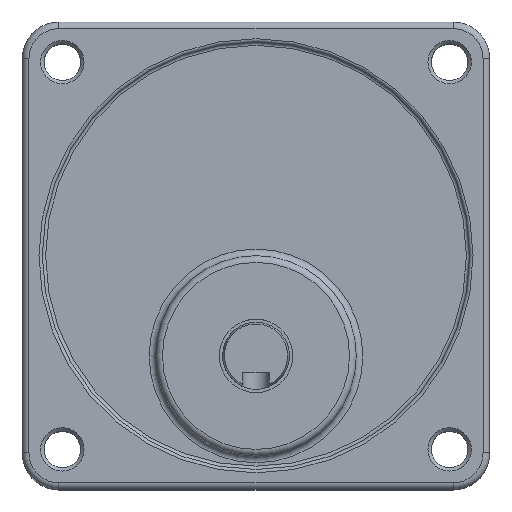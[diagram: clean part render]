
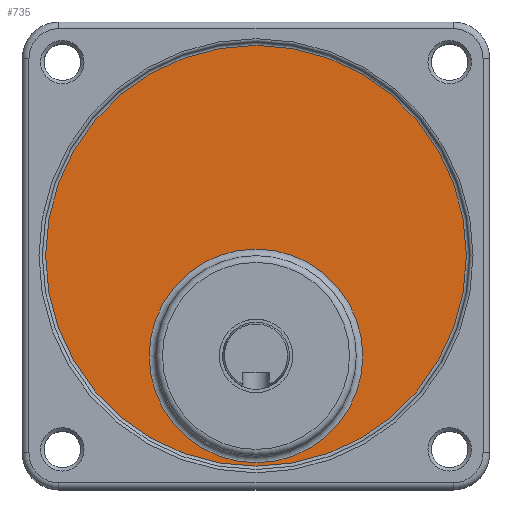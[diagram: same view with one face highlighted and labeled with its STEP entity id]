
A CAD part, top view. The second image highlights one B-rep face of the part: STEP entity #735.
In plain terms, the highlighted planar face has unit normal (0, 0, 1).
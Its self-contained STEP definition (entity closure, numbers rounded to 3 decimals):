
#684=CARTESIAN_POINT('',(51.,20.0,41.));
#685=VERTEX_POINT('',#684);
#686=CARTESIAN_POINT('',(35.,20.0,41.));
#687=DIRECTION('',(0.0,0.0,1.0));
#688=DIRECTION('',(-1.0,0.0,0.0));
#689=AXIS2_PLACEMENT_3D('',#686,#687,#688);
#690=CIRCLE('',#689,16.0);
#691=EDGE_CURVE('',#685,#685,#690,.T.);
#716=CARTESIAN_POINT('',(35.,35.0,41.));
#717=DIRECTION('',(0.0,0.0,-1.0));
#718=DIRECTION('',(-1.0,0.0,0.0));
#719=AXIS2_PLACEMENT_3D('',#716,#717,#718);
#720=PLANE('',#719);
#721=CARTESIAN_POINT('',(66.5,35.,41.));
#722=VERTEX_POINT('',#721);
#723=CARTESIAN_POINT('',(35.,35.0,41.));
#724=DIRECTION('',(0.0,0.0,-1.0));
#725=DIRECTION('',(-1.0,0.0,0.0));
#726=AXIS2_PLACEMENT_3D('',#723,#724,#725);
#727=CIRCLE('',#726,31.5);
#728=EDGE_CURVE('',#722,#722,#727,.T.);
#729=ORIENTED_EDGE('',*,*,#728,.F.);
#730=EDGE_LOOP('',(#729));
#731=FACE_OUTER_BOUND('',#730,.T.);
#732=ORIENTED_EDGE('',*,*,#691,.F.);
#733=EDGE_LOOP('',(#732));
#734=FACE_BOUND('',#733,.T.);
#735=ADVANCED_FACE('',(#731,#734),#720,.F.);
